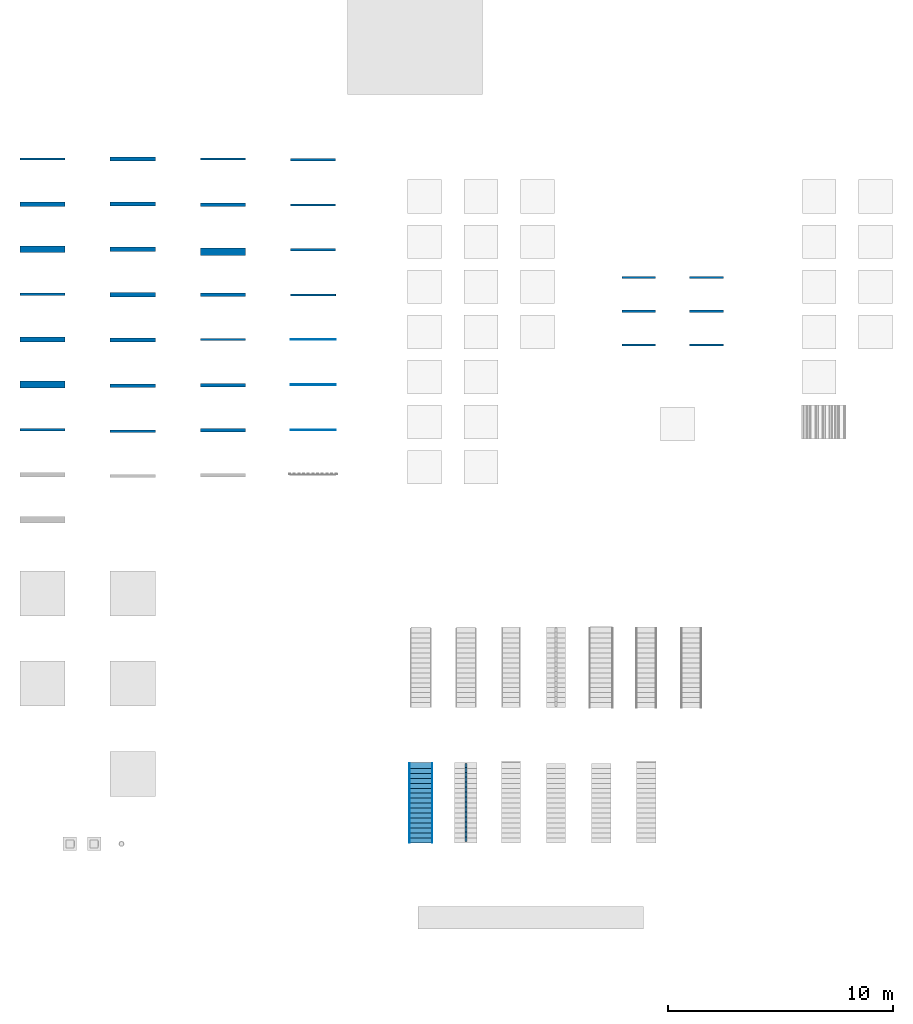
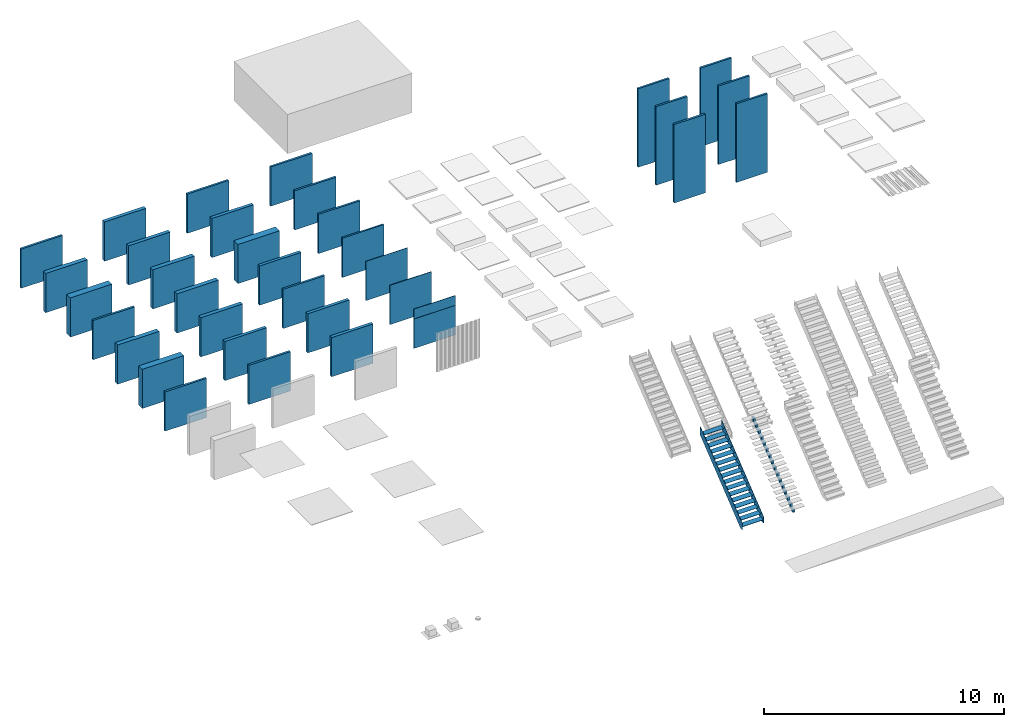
# One storey, part 3 of 11: 35 walls, 3 stairs, 3 elements without a shape of their own.
"""IFC2X3 building model written with IfcOpenShell, lengths in millimetres."""

from ifc_helpers import new_model, entity, si_unit, converted_unit, derived_unit, direction, frame, frame_2d, origin, place, context, subcontext, project, spatial, polyline, rectangle, outline, extrude, material, layer, layer_set, layer_usage, type_object, element, aggregate, save


model = new_model("IFC2X3")

# Units and contexts
model_context = context("Model", 3, precision=0.01, world=origin(), true_north=direction((6.12303176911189e-17, 1.0)))
body_context = subcontext(model_context, "Body", "Model", "MODEL_VIEW")
ifc_project = project(units=[si_unit("LENGTHUNIT", "METRE", prefix="MILLI"), si_unit("AREAUNIT", "SQUARE_METRE"), si_unit("VOLUMEUNIT", "CUBIC_METRE"), converted_unit("PLANEANGLEUNIT", "DEGREE", entity("IfcRatioMeasure", 0.0174532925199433), si_unit("PLANEANGLEUNIT", "RADIAN"), dimensions=[0, 0, 0, 0, 0, 0, 0]), si_unit("MASSUNIT", "GRAM", prefix="KILO"), si_unit("TIMEUNIT", "SECOND"), si_unit("FREQUENCYUNIT", "HERTZ"), si_unit("THERMODYNAMICTEMPERATUREUNIT", "KELVIN"), derived_unit("THERMALTRANSMITTANCEUNIT", [(si_unit("MASSUNIT", "GRAM", prefix="KILO"), 1), (si_unit("THERMODYNAMICTEMPERATUREUNIT", "KELVIN"), -1), (si_unit("TIMEUNIT", "SECOND"), -3)]), derived_unit("VOLUMETRICFLOWRATEUNIT", [(si_unit("LENGTHUNIT", "METRE"), 3), (si_unit("TIMEUNIT", "SECOND"), -1)]), si_unit("ELECTRICCURRENTUNIT", "AMPERE"), si_unit("ELECTRICVOLTAGEUNIT", "VOLT"), si_unit("POWERUNIT", "WATT")], contexts=[model_context])

# Site, building, storey
site_placement = place(None, origin())
site = spatial("IfcSite", under=ifc_project, at=site_placement, Name="Surface:5707", CompositionType="ELEMENT")
building_placement = place(site_placement, origin())
building = spatial("IfcBuilding", under=site, at=building_placement, CompositionType="ELEMENT")
storey_placement = place(building_placement, origin())
storey = spatial("IfcBuildingStorey", under=building, at=storey_placement, Name="00_begane grond", CompositionType="ELEMENT", Elevation=0.0)

# Walls
ifc_material_1 = material(Name="Default")
ifc_layer_1 = layer(ifc_material_1, 100.0)
ifc_layer_set_1 = layer_set([ifc_layer_1], Name="Basic Wall:Basic Wall:20_WA_wand_generiek_100")
ifc_layer_usage_1 = layer_usage(ifc_layer_set_1, "AXIS2", "NEGATIVE", 50.0)
wall_type_1 = type_object("IfcWallType", Name="Basic Wall:Basic Wall:20_WA_wand_generiek_100", PredefinedType="STANDARD", material=ifc_layer_set_1)
wall_1_placement = place(storey_placement, frame((0.0, -1000.0, 0.0)))
element("IfcWallStandardCase", 1, at=wall_1_placement, inside=storey, type_object=wall_type_1, material=ifc_layer_usage_1, Name="Basic Wall:Basic Wall:20_WA_wand_generiek_100:5875", ObjectType="Basic Wall:Basic Wall:20_WA_wand_generiek_100:5790", context=body_context, shape_type="SweptSolid", body=[
    extrude(rectangle(XDim=2000.0, YDim=100.0, at=frame_2d((1000.0, 0.0), x_axis=(-1.0, 0.0))), origin(), (0.0, 0.0, 1.0), 2000.0),
])
ifc_layer_usage_2 = layer_usage(ifc_layer_set_1, "AXIS2", "NEGATIVE", 50.0)
wall_2_placement = place(storey_placement, frame((29689.8687148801, -6248.9380073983, 0.0)))
element("IfcWallStandardCase", 2, at=wall_2_placement, inside=storey, type_object=wall_type_1, material=ifc_layer_usage_2, Name="Basic Wall:Basic Wall:20_WA_wand_generiek_100:6094", ObjectType="Basic Wall:Basic Wall:20_WA_wand_generiek_100:5790", context=body_context, shape_type="SweptSolid", body=[
    extrude(rectangle(XDim=1500.0, YDim=99.9999999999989, at=frame_2d((750.000000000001, 0.0), x_axis=(-1.0, 0.0))), origin(), (0.0, 0.0, 1.0), 4000.0),
])
ifc_layer_usage_3 = layer_usage(ifc_layer_set_1, "AXIS2", "NEGATIVE", 50.0)
wall_3_placement = place(storey_placement, frame((29689.8687148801, -7748.9380073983, 0.0)))
element("IfcWallStandardCase", 3, at=wall_3_placement, inside=storey, type_object=wall_type_1, material=ifc_layer_usage_3, Name="Basic Wall:Basic Wall:20_WA_wand_generiek_100:6095", ObjectType="Basic Wall:Basic Wall:20_WA_wand_generiek_100:5790", context=body_context, shape_type="SweptSolid", body=[
    extrude(rectangle(XDim=1500.0, YDim=100.000000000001, at=frame_2d((750.000000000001, 0.0), x_axis=(-1.0, 0.0))), origin(), (0.0, 0.0, 1.0), 4000.0),
])
ifc_layer_usage_4 = layer_usage(ifc_layer_set_1, "AXIS2", "NEGATIVE", 50.0)
wall_4_placement = place(storey_placement, frame((29689.8687148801, -9248.9380073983, 0.0)))
element("IfcWallStandardCase", 4, at=wall_4_placement, inside=storey, type_object=wall_type_1, material=ifc_layer_usage_4, Name="Basic Wall:Basic Wall:20_WA_wand_generiek_100:6096", ObjectType="Basic Wall:Basic Wall:20_WA_wand_generiek_100:5790", context=body_context, shape_type="SweptSolid", body=[
    extrude(rectangle(XDim=1500.0, YDim=100.000000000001, at=frame_2d((750.000000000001, 0.0), x_axis=(-1.0, 0.0))), origin(), (0.0, 0.0, 1.0), 4000.0),
])
ifc_layer_usage_5 = layer_usage(ifc_layer_set_1, "AXIS2", "NEGATIVE", 50.0)
wall_5_placement = place(storey_placement, frame((26689.8687148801, -6248.93800739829, 0.0)))
element("IfcWallStandardCase", 5, at=wall_5_placement, inside=storey, type_object=wall_type_1, material=ifc_layer_usage_5, Name="Basic Wall:Basic Wall:20_WA_wand_generiek_100:6097", ObjectType="Basic Wall:Basic Wall:20_WA_wand_generiek_100:5790", context=body_context, shape_type="SweptSolid", body=[
    extrude(rectangle(XDim=1500.0, YDim=100.000000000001, at=frame_2d((749.999999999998, 0.0), x_axis=(-1.0, 0.0))), origin(), (0.0, 0.0, 1.0), 4000.0),
])
ifc_layer_usage_6 = layer_usage(ifc_layer_set_1, "AXIS2", "NEGATIVE", 50.0)
wall_6_placement = place(storey_placement, frame((26689.8687148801, -7748.93800739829, 0.0)))
element("IfcWallStandardCase", 6, at=wall_6_placement, inside=storey, type_object=wall_type_1, material=ifc_layer_usage_6, Name="Basic Wall:Basic Wall:20_WA_wand_generiek_100:6098", ObjectType="Basic Wall:Basic Wall:20_WA_wand_generiek_100:5790", context=body_context, shape_type="SweptSolid", body=[
    extrude(rectangle(XDim=1500.0, YDim=99.9999999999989, at=frame_2d((749.999999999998, 0.0), x_axis=(-1.0, 0.0))), origin(), (0.0, 0.0, 1.0), 4000.0),
])
ifc_layer_usage_7 = layer_usage(ifc_layer_set_1, "AXIS2", "NEGATIVE", 50.0)
wall_7_placement = place(storey_placement, frame((26689.86871488, -9248.93800739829, 0.0)))
element("IfcWallStandardCase", 7, at=wall_7_placement, inside=storey, type_object=wall_type_1, material=ifc_layer_usage_7, Name="Basic Wall:Basic Wall:20_WA_wand_generiek_100:6099", ObjectType="Basic Wall:Basic Wall:20_WA_wand_generiek_100:5790", context=body_context, shape_type="SweptSolid", body=[
    extrude(rectangle(XDim=1500.0, YDim=100.000000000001, at=frame_2d((750.000000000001, 0.0), x_axis=(-1.0, 0.0))), origin(), (0.0, 0.0, 1.0), 4000.0),
])
ifc_layer_2 = layer(ifc_material_1, 200.0)
ifc_layer_set_2 = layer_set([ifc_layer_2], Name="Basic Wall:Basic Wall:20_WA_wand_generiek_200")
ifc_layer_usage_8 = layer_usage(ifc_layer_set_2, "AXIS2", "NEGATIVE", 100.0)
wall_type_2 = type_object("IfcWallType", Name="Basic Wall:Basic Wall:20_WA_wand_generiek_200", PredefinedType="STANDARD", material=ifc_layer_set_2)
wall_8_placement = place(storey_placement, frame((0.0, -3000.0, 0.0)))
element("IfcWallStandardCase", 8, at=wall_8_placement, inside=storey, type_object=wall_type_2, material=ifc_layer_usage_8, Name="Basic Wall:Basic Wall:20_WA_wand_generiek_200:5876", ObjectType="Basic Wall:Basic Wall:20_WA_wand_generiek_200:5789", context=body_context, shape_type="SweptSolid", body=[
    extrude(rectangle(XDim=2000.0, YDim=200.0, at=frame_2d((1000.0, 0.0), x_axis=(-1.0, 0.0))), origin(), (0.0, 0.0, 1.0), 2000.0),
])
ifc_layer_3 = layer(ifc_material_1, 300.0)
ifc_layer_set_3 = layer_set([ifc_layer_3], Name="Basic Wall:Basic Wall:20_WA_wand_generiek_300")
ifc_layer_usage_9 = layer_usage(ifc_layer_set_3, "AXIS2", "NEGATIVE", 150.0)
wall_type_3 = type_object("IfcWallType", Name="Basic Wall:Basic Wall:20_WA_wand_generiek_300", PredefinedType="STANDARD", material=ifc_layer_set_3)
wall_9_placement = place(storey_placement, frame((0.0, -5000.0, 0.0)))
element("IfcWallStandardCase", 9, at=wall_9_placement, inside=storey, type_object=wall_type_3, material=ifc_layer_usage_9, Name="Basic Wall:Basic Wall:20_WA_wand_generiek_300:5877", ObjectType="Basic Wall:Basic Wall:20_WA_wand_generiek_300:5788", context=body_context, shape_type="SweptSolid", body=[
    extrude(rectangle(XDim=2000.0, YDim=300.000000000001, at=frame_2d((1000.0, -2.70006239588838e-13), x_axis=(-1.0, 0.0))), origin(), (0.0, 0.0, 1.0), 2000.0),
])
ifc_material_2 = material(Name="20_baksteen_wf_210x100x50_10mm_voeg_halfsteens_rood_genuanceerd")
ifc_layer_4 = layer(ifc_material_2, 100.0)
ifc_layer_set_4 = layer_set([ifc_layer_4], Name="Basic Wall:Basic Wall:21_WA_mw_100")
ifc_layer_usage_10 = layer_usage(ifc_layer_set_4, "AXIS2", "NEGATIVE", 50.0)
wall_type_4 = type_object("IfcWallType", Name="Basic Wall:Basic Wall:21_WA_mw_100", PredefinedType="STANDARD", material=ifc_layer_set_4)
wall_10_placement = place(storey_placement, frame((0.0, -13000.0, 0.0)))
element("IfcWallStandardCase", 10, at=wall_10_placement, inside=storey, type_object=wall_type_4, material=ifc_layer_usage_10, Name="Basic Wall:Basic Wall:21_WA_mw_100:5878", ObjectType="Basic Wall:Basic Wall:21_WA_mw_100:5787", context=body_context, shape_type="SweptSolid", body=[
    extrude(rectangle(XDim=2000.0, YDim=99.9999999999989, at=frame_2d((1000.0, 0.0), x_axis=(-1.0, 0.0))), origin(), (0.0, 0.0, 1.0), 2000.0),
])
ifc_material_3 = material(Name="00_baksteen_bestaand")
ifc_layer_5 = layer(ifc_material_3, 100.0)
ifc_layer_set_5 = layer_set([ifc_layer_5], Name="Basic Wall:Basic Wall:21_WA_mw-bestaand_100")
ifc_layer_usage_11 = layer_usage(ifc_layer_set_5, "AXIS2", "NEGATIVE", 50.0)
wall_type_5 = type_object("IfcWallType", Name="Basic Wall:Basic Wall:21_WA_mw-bestaand_100", PredefinedType="STANDARD", material=ifc_layer_set_5)
wall_11_placement = place(storey_placement, frame((0.0, -7000.0, 0.0)))
element("IfcWallStandardCase", 11, at=wall_11_placement, inside=storey, type_object=wall_type_5, material=ifc_layer_usage_11, Name="Basic Wall:Basic Wall:21_WA_mw-bestaand_100:5881", ObjectType="Basic Wall:Basic Wall:21_WA_mw-bestaand_100:5784", context=body_context, shape_type="SweptSolid", body=[
    extrude(rectangle(XDim=2000.0, YDim=99.9999999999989, at=frame_2d((1000.0, 0.0), x_axis=(-1.0, 0.0))), origin(), (0.0, 0.0, 1.0), 2000.0),
])
ifc_layer_6 = layer(ifc_material_3, 210.0)
ifc_layer_set_6 = layer_set([ifc_layer_6], Name="Basic Wall:Basic Wall:21_WA_mw_bestaand_210")
ifc_layer_usage_12 = layer_usage(ifc_layer_set_6, "AXIS2", "NEGATIVE", 105.0)
wall_type_6 = type_object("IfcWallType", Name="Basic Wall:Basic Wall:21_WA_mw_bestaand_210", PredefinedType="STANDARD", material=ifc_layer_set_6)
wall_12_placement = place(storey_placement, frame((0.0, -9000.0, 0.0)))
element("IfcWallStandardCase", 12, at=wall_12_placement, inside=storey, type_object=wall_type_6, material=ifc_layer_usage_12, Name="Basic Wall:Basic Wall:21_WA_mw_bestaand_210:5882", ObjectType="Basic Wall:Basic Wall:21_WA_mw_bestaand_210:5783", context=body_context, shape_type="SweptSolid", body=[
    extrude(rectangle(XDim=2000.0, YDim=210.0, at=frame_2d((1000.0, 0.0), x_axis=(-1.0, 0.0))), origin(), (0.0, 0.0, 1.0), 2000.0),
])
ifc_layer_7 = layer(ifc_material_3, 100.0)
ifc_material_4 = material(Name="00_lucht_spouw_muur_geventileerd")
ifc_layer_8 = layer(ifc_material_4, 100.0)
ifc_layer_9 = layer(ifc_material_3, 100.0)
ifc_layer_set_7 = layer_set([ifc_layer_7, ifc_layer_8, ifc_layer_9], Name="Basic Wall:Basic Wall:21_WA_mw-bestaand_spouw_mw-bestaand_300_100-100-100")
ifc_layer_usage_13 = layer_usage(ifc_layer_set_7, "AXIS2", "NEGATIVE", 150.0)
wall_type_7 = type_object("IfcWallType", Name="Basic Wall:Basic Wall:21_WA_mw-bestaand_spouw_mw-bestaand_300_100-100-100", PredefinedType="STANDARD", material=ifc_layer_set_7)
wall_13_placement = place(storey_placement, frame((0.0, -11000.0, 0.0)))
element("IfcWallStandardCase", 13, at=wall_13_placement, inside=storey, type_object=wall_type_7, material=ifc_layer_usage_13, Name="Basic Wall:Basic Wall:21_WA_mw-bestaand_spouw_mw-bestaand_300_100-100-100:5883", ObjectType="Basic Wall:Basic Wall:21_WA_mw-bestaand_spouw_mw-bestaand_300_100-100-100:5780", context=body_context, shape_type="SweptSolid", body=[
    extrude(rectangle(XDim=2000.0, YDim=300.000000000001, at=frame_2d((1000.0, 0.0), x_axis=(-1.0, 0.0))), origin(), (0.0, 0.0, 1.0), 2000.0),
])
ifc_layer_10 = layer(ifc_material_2, 100.0)
ifc_layer_11 = layer(ifc_material_4, 70.0)
ifc_layer_set_8 = layer_set([ifc_layer_10, ifc_layer_11], Name="Basic Wall:Basic Wall:-70")
ifc_layer_usage_14 = layer_usage(ifc_layer_set_8, "AXIS2", "NEGATIVE", 85.0)
wall_type_8 = type_object("IfcWallType", Name="Basic Wall:Basic Wall:-70", PredefinedType="STANDARD", material=ifc_layer_set_8)
wall_14_placement = place(storey_placement, frame((4000.0, -1000.0, 0.0)))
element("IfcWallStandardCase", 14, at=wall_14_placement, inside=storey, type_object=wall_type_8, material=ifc_layer_usage_14, Name="Basic Wall:Basic Wall:-70:5884", ObjectType="Basic Wall:Basic Wall:-70:5777", context=body_context, shape_type="SweptSolid", body=[
    extrude(rectangle(XDim=2000.0, YDim=170.0, at=frame_2d((1000.0, 0.0), x_axis=(-1.0, 0.0))), origin(), (0.0, 0.0, 1.0), 2000.0),
])
ifc_layer_12 = layer(ifc_material_2, 100.0)
ifc_layer_13 = layer(ifc_material_4, 20.0)
ifc_material_5 = material(Name="20_isolatie_steenwol")
ifc_layer_14 = layer(ifc_material_5, 50.0)
ifc_layer_set_9 = layer_set([ifc_layer_12, ifc_layer_13, ifc_layer_14], Name="Basic Wall:Basic Wall:21_WA_mw_spouw_iso-sw_170_100-20-50")
ifc_layer_usage_15 = layer_usage(ifc_layer_set_9, "AXIS2", "NEGATIVE", 85.0)
wall_type_9 = type_object("IfcWallType", Name="Basic Wall:Basic Wall:21_WA_mw_spouw_iso-sw_170_100-20-50", PredefinedType="STANDARD", material=ifc_layer_set_9)
wall_15_placement = place(storey_placement, frame((4000.0, -3000.0, 0.0)))
element("IfcWallStandardCase", 15, at=wall_15_placement, inside=storey, type_object=wall_type_9, material=ifc_layer_usage_15, Name="Basic Wall:Basic Wall:21_WA_mw_spouw_iso-sw_170_100-20-50:5885", ObjectType="Basic Wall:Basic Wall:21_WA_mw_spouw_iso-sw_170_100-20-50:5776", context=body_context, shape_type="SweptSolid", body=[
    extrude(rectangle(XDim=2000.0, YDim=170.0, at=frame_2d((1000.0, 0.0), x_axis=(-1.0, 0.0))), origin(), (0.0, 0.0, 1.0), 2000.0),
])
ifc_layer_15 = layer(ifc_material_2, 100.0)
ifc_layer_16 = layer(ifc_material_4, 30.0)
ifc_layer_17 = layer(ifc_material_5, 70.0)
ifc_layer_set_10 = layer_set([ifc_layer_15, ifc_layer_16, ifc_layer_17], Name="Basic Wall:Basic Wall:21_WA_mw_spouw_iso-sw_200_100-30-70")
ifc_layer_usage_16 = layer_usage(ifc_layer_set_10, "AXIS2", "NEGATIVE", 100.0)
wall_type_10 = type_object("IfcWallType", Name="Basic Wall:Basic Wall:21_WA_mw_spouw_iso-sw_200_100-30-70", PredefinedType="STANDARD", material=ifc_layer_set_10)
wall_16_placement = place(storey_placement, frame((4000.0, -5000.0, 0.0)))
element("IfcWallStandardCase", 16, at=wall_16_placement, inside=storey, type_object=wall_type_10, material=ifc_layer_usage_16, Name="Basic Wall:Basic Wall:21_WA_mw_spouw_iso-sw_200_100-30-70:5886", ObjectType="Basic Wall:Basic Wall:21_WA_mw_spouw_iso-sw_200_100-30-70:5775", context=body_context, shape_type="SweptSolid", body=[
    extrude(rectangle(XDim=2000.0, YDim=200.0, at=frame_2d((1000.0, 0.0), x_axis=(-1.0, 0.0))), origin(), (0.0, 0.0, 1.0), 2000.0),
])
ifc_layer_usage_17 = layer_usage(ifc_layer_set_10, "AXIS2", "NEGATIVE", 100.0)
wall_17_placement = place(storey_placement, frame((4000.0, -7020.0, 0.0)))
element("IfcWallStandardCase", 17, at=wall_17_placement, inside=storey, type_object=wall_type_10, material=ifc_layer_usage_17, Name="Basic Wall:Basic Wall:21_WA_mw_spouw_iso-sw_200_100-30-70:5887", ObjectType="Basic Wall:Basic Wall:21_WA_mw_spouw_iso-sw_200_100-30-70:5775", context=body_context, shape_type="SweptSolid", body=[
    extrude(rectangle(XDim=2000.0, YDim=200.0, at=frame_2d((1000.0, 0.0), x_axis=(-1.0, 0.0))), origin(), (0.0, 0.0, 1.0), 2000.0),
])
ifc_material_6 = material(Name="41_hout_hardhout_geveldelen_donkerblauw_horizontaal")
ifc_layer_18 = layer(ifc_material_6, 20.0)
ifc_material_7 = material(Name="40_regelwerk_geventileerd")
ifc_layer_19 = layer(ifc_material_7, 30.0)
ifc_layer_20 = layer(ifc_material_7, 10.0)
ifc_layer_21 = layer(ifc_material_5, 120.0)
ifc_layer_set_11 = layer_set([ifc_layer_18, ifc_layer_19, ifc_layer_20, ifc_layer_21], Name="Basic Wall:Basic Wall:21_WA_hout-wrc-hor_rachel_tengel_iso-sw_180_20-30-10-120")
ifc_layer_usage_18 = layer_usage(ifc_layer_set_11, "AXIS2", "NEGATIVE", 90.0)
wall_type_11 = type_object("IfcWallType", Name="Basic Wall:Basic Wall:21_WA_hout-wrc-hor_rachel_tengel_iso-sw_180_20-30-10-120", PredefinedType="STANDARD", material=ifc_layer_set_11)
wall_18_placement = place(storey_placement, frame((4000.0, -9030.0, 0.0)))
element("IfcWallStandardCase", 18, at=wall_18_placement, inside=storey, type_object=wall_type_11, material=ifc_layer_usage_18, Name="Basic Wall:Basic Wall:21_WA_hout-wrc-hor_rachel_tengel_iso-sw_180_20-30-10-120:5888", ObjectType="Basic Wall:Basic Wall:21_WA_hout-wrc-hor_rachel_tengel_iso-sw_180_20-30-10-120:5773", context=body_context, shape_type="SweptSolid", body=[
    extrude(rectangle(XDim=2000.0, YDim=180.0, at=frame_2d((1000.0, 0.0), x_axis=(-1.0, 0.0))), origin(), (0.0, 0.0, 1.0), 2000.0),
])
ifc_material_8 = material(Name="28_kalkzandsteen_CS16")
ifc_layer_22 = layer(ifc_material_8, 100.0)
ifc_layer_set_12 = layer_set([ifc_layer_22], Name="Basic Wall:Basic Wall:28_WA_kzs_CS16_100")
ifc_layer_usage_19 = layer_usage(ifc_layer_set_12, "AXIS2", "NEGATIVE", 50.0)
wall_type_12 = type_object("IfcWallType", Name="Basic Wall:Basic Wall:28_WA_kzs_CS16_100", PredefinedType="STANDARD", material=ifc_layer_set_12)
wall_19_placement = place(storey_placement, frame((8000.0, -1000.0, 0.0)))
element("IfcWallStandardCase", 19, at=wall_19_placement, inside=storey, type_object=wall_type_12, material=ifc_layer_usage_19, Name="Basic Wall:Basic Wall:28_WA_kzs_CS16_100:5889", ObjectType="Basic Wall:Basic Wall:28_WA_kzs_CS16_100:5772", context=body_context, shape_type="SweptSolid", body=[
    extrude(rectangle(XDim=2000.0, YDim=100.0, at=frame_2d((1000.0, 0.0), x_axis=(-1.0, 0.0))), origin(), (0.0, 0.0, 1.0), 2000.0),
])
ifc_material_9 = material(Name="40_stucwerk_exterieur_grof_wit")
ifc_layer_23 = layer(ifc_material_9, 30.0)
ifc_material_10 = material(Name="20_isolatie_EPS")
ifc_layer_24 = layer(ifc_material_10, 120.0)
ifc_layer_set_13 = layer_set([ifc_layer_23, ifc_layer_24], Name="Basic Wall:Basic Wall:21_WA_stucwerk_iso-eps_150_30-120")
ifc_layer_usage_20 = layer_usage(ifc_layer_set_13, "AXIS2", "NEGATIVE", 75.0)
wall_type_13 = type_object("IfcWallType", Name="Basic Wall:Basic Wall:21_WA_stucwerk_iso-eps_150_30-120", PredefinedType="STANDARD", material=ifc_layer_set_13)
wall_20_placement = place(storey_placement, frame((4000.0, -11045.0, 0.0)))
element("IfcWallStandardCase", 20, at=wall_20_placement, inside=storey, type_object=wall_type_13, material=ifc_layer_usage_20, Name="Basic Wall:Basic Wall:21_WA_stucwerk_iso-eps_150_30-120:5890", ObjectType="Basic Wall:Basic Wall:21_WA_stucwerk_iso-eps_150_30-120:5770", context=body_context, shape_type="SweptSolid", body=[
    extrude(rectangle(XDim=2000.0, YDim=150.000000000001, at=frame_2d((1000.0, 0.0), x_axis=(-1.0, 0.0))), origin(), (0.0, 0.0, 1.0), 2000.0),
])
ifc_material_11 = material(Name="41_staal_geanodizeerd_wit")
ifc_layer_25 = layer(ifc_material_11, 1.6)
ifc_material_12 = material(Name="20_isolatie_PIR")
ifc_layer_26 = layer(ifc_material_12, 96.8)
ifc_layer_27 = layer(ifc_material_11, 1.6)
ifc_layer_set_14 = layer_set([ifc_layer_25, ifc_layer_26, ifc_layer_27], Name="Basic Wall:Basic Wall:21_WA_sandwichpaneel_100x1000")
ifc_layer_usage_21 = layer_usage(ifc_layer_set_14, "AXIS2", "NEGATIVE", 50.0)
wall_type_14 = type_object("IfcWallType", Name="Basic Wall:Basic Wall:21_WA_sandwichpaneel_100x1000", PredefinedType="STANDARD", material=ifc_layer_set_14)
wall_21_placement = place(storey_placement, frame((4000.0, -13070.0, 0.0)))
element("IfcWallStandardCase", 21, at=wall_21_placement, inside=storey, type_object=wall_type_14, material=ifc_layer_usage_21, Name="Basic Wall:Basic Wall:21_WA_sandwichpaneel_100x1000:5891", ObjectType="Basic Wall:Basic Wall:21_WA_sandwichpaneel_100x1000:5768", context=body_context, shape_type="SweptSolid", body=[
    extrude(rectangle(XDim=2000.0, YDim=99.9999999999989, at=frame_2d((1000.0, 0.0), x_axis=(-1.0, 0.0))), origin(), (0.0, 0.0, 1.0), 2000.0),
])
ifc_layer_28 = layer(ifc_material_8, 150.0)
ifc_layer_set_15 = layer_set([ifc_layer_28], Name="Basic Wall:Basic Wall:28_WA_kzs_CS16_150")
ifc_layer_usage_22 = layer_usage(ifc_layer_set_15, "AXIS2", "NEGATIVE", 75.0)
wall_type_15 = type_object("IfcWallType", Name="Basic Wall:Basic Wall:28_WA_kzs_CS16_150", PredefinedType="STANDARD", material=ifc_layer_set_15)
wall_22_placement = place(storey_placement, frame((8000.0, -3025.0, 0.0)))
element("IfcWallStandardCase", 22, at=wall_22_placement, inside=storey, type_object=wall_type_15, material=ifc_layer_usage_22, Name="Basic Wall:Basic Wall:28_WA_kzs_CS16_150:5892", ObjectType="Basic Wall:Basic Wall:28_WA_kzs_CS16_150:5767", context=body_context, shape_type="SweptSolid", body=[
    extrude(rectangle(XDim=2000.0, YDim=150.000000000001, at=frame_2d((1000.0, 0.0), x_axis=(-1.0, 0.0))), origin(), (0.0, 0.0, 1.0), 2000.0),
])
ifc_layer_29 = layer(ifc_material_8, 150.0)
ifc_layer_30 = layer(ifc_material_4, 30.0)
ifc_layer_31 = layer(ifc_material_8, 150.0)
ifc_layer_set_16 = layer_set([ifc_layer_29, ifc_layer_30, ifc_layer_31], Name="Basic Wall:Basic Wall:28_WA_kzs-CS16_spouw_kzs-C16_330_150-30-150")
ifc_layer_usage_23 = layer_usage(ifc_layer_set_16, "AXIS2", "NEGATIVE", 165.0)
wall_type_16 = type_object("IfcWallType", Name="Basic Wall:Basic Wall:28_WA_kzs-CS16_spouw_kzs-C16_330_150-30-150", PredefinedType="STANDARD", material=ifc_layer_set_16)
wall_23_placement = place(storey_placement, frame((8000.0, -5115.0, 0.0)))
element("IfcWallStandardCase", 23, at=wall_23_placement, inside=storey, type_object=wall_type_16, material=ifc_layer_usage_23, Name="Basic Wall:Basic Wall:28_WA_kzs-CS16_spouw_kzs-C16_330_150-30-150:5893", ObjectType="Basic Wall:Basic Wall:28_WA_kzs-CS16_spouw_kzs-C16_330_150-30-150:5766", context=body_context, shape_type="SweptSolid", body=[
    extrude(rectangle(XDim=2000.0, YDim=330.000000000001, at=frame_2d((1000.0, 0.0), x_axis=(-1.0, 0.0))), origin(), (0.0, 0.0, 1.0), 2000.0),
])
ifc_material_13 = material(Name="28_poriso_dragend")
ifc_layer_32 = layer(ifc_material_13, 140.0)
ifc_layer_set_17 = layer_set([ifc_layer_32], Name="Basic Wall:Basic Wall:28_WA_por_PM25_140")
ifc_layer_usage_24 = layer_usage(ifc_layer_set_17, "AXIS2", "NEGATIVE", 70.0)
wall_type_17 = type_object("IfcWallType", Name="Basic Wall:Basic Wall:28_WA_por_PM25_140", PredefinedType="STANDARD", material=ifc_layer_set_17)
wall_24_placement = place(storey_placement, frame((8000.0, -7020.0, 0.0)))
element("IfcWallStandardCase", 24, at=wall_24_placement, inside=storey, type_object=wall_type_17, material=ifc_layer_usage_24, Name="Basic Wall:Basic Wall:28_WA_por_PM25_140:5894", ObjectType="Basic Wall:Basic Wall:28_WA_por_PM25_140:5765", context=body_context, shape_type="SweptSolid", body=[
    extrude(rectangle(XDim=2000.0, YDim=140.000000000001, at=frame_2d((1000.0, 0.0), x_axis=(-1.0, 0.0))), origin(), (0.0, 0.0, 1.0), 2000.0),
])
ifc_material_14 = material(Name="28_cellenbeton_G4/600")
ifc_layer_33 = layer(ifc_material_14, 100.0)
ifc_layer_set_18 = layer_set([ifc_layer_33], Name="Basic Wall:Basic Wall:28_WA_cb_G4/600_100")
ifc_layer_usage_25 = layer_usage(ifc_layer_set_18, "AXIS2", "NEGATIVE", 50.0)
wall_type_18 = type_object("IfcWallType", Name="Basic Wall:Basic Wall:28_WA_cb_G4/600_100", PredefinedType="STANDARD", material=ifc_layer_set_18)
wall_25_placement = place(storey_placement, frame((8000.0, -9000.0, 0.0)))
element("IfcWallStandardCase", 25, at=wall_25_placement, inside=storey, type_object=wall_type_18, material=ifc_layer_usage_25, Name="Basic Wall:Basic Wall:28_WA_cb_G4/600_100:5895", ObjectType="Basic Wall:Basic Wall:28_WA_cb_G4/600_100:5764", context=body_context, shape_type="SweptSolid", body=[
    extrude(rectangle(XDim=2000.0, YDim=99.9999999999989, at=frame_2d((1000.0, 0.0), x_axis=(-1.0, 0.0))), origin(), (0.0, 0.0, 1.0), 2000.0),
])
ifc_material_15 = material(Name="28_beton_prefab_C45_55")
ifc_layer_34 = layer(ifc_material_15, 150.0)
ifc_layer_set_19 = layer_set([ifc_layer_34], Name="Basic Wall:Basic Wall:28_WA_prefabb_C45_150")
ifc_layer_usage_26 = layer_usage(ifc_layer_set_19, "AXIS2", "NEGATIVE", 75.0)
wall_type_19 = type_object("IfcWallType", Name="Basic Wall:Basic Wall:28_WA_prefabb_C45_150", PredefinedType="STANDARD", material=ifc_layer_set_19)
wall_26_placement = place(storey_placement, frame((8000.0, -13025.0, 0.0)))
element("IfcWallStandardCase", 26, at=wall_26_placement, inside=storey, type_object=wall_type_19, material=ifc_layer_usage_26, Name="Basic Wall:Basic Wall:28_WA_prefabb_C45_150:5896", ObjectType="Basic Wall:Basic Wall:28_WA_prefabb_C45_150:5763", context=body_context, shape_type="SweptSolid", body=[
    extrude(rectangle(XDim=2000.0, YDim=150.000000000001, at=frame_2d((1000.0, 0.0), x_axis=(-1.0, 0.0))), origin(), (0.0, 0.0, 1.0), 2000.0),
])
ifc_material_16 = material(Name="22_kalkzandsteen_CS12")
ifc_layer_35 = layer(ifc_material_16, 100.0)
ifc_layer_set_20 = layer_set([ifc_layer_35], Name="Basic Wall:Basic Wall:22_WA_kzs_CS12_100")
ifc_layer_usage_27 = layer_usage(ifc_layer_set_20, "AXIS2", "NEGATIVE", 50.0)
wall_type_20 = type_object("IfcWallType", Name="Basic Wall:Basic Wall:22_WA_kzs_CS12_100", PredefinedType="STANDARD", material=ifc_layer_set_20)
wall_27_placement = place(storey_placement, frame((12000.0, -1035.0, 0.0)))
element("IfcWallStandardCase", 27, at=wall_27_placement, inside=storey, type_object=wall_type_20, material=ifc_layer_usage_27, Name="Basic Wall:Basic Wall:22_WA_kzs_CS12_100:5897", ObjectType="Basic Wall:Basic Wall:22_WA_kzs_CS12_100:5762", context=body_context, shape_type="SweptSolid", body=[
    extrude(rectangle(XDim=2000.0, YDim=100.0, at=frame_2d((1000.0, 0.0), x_axis=(-1.0, 0.0))), origin(), (0.0, 0.0, 1.0), 2000.0),
])
ifc_material_17 = material(Name="22_cellenbeton G2/400")
ifc_layer_36 = layer(ifc_material_17, 100.0)
ifc_layer_set_21 = layer_set([ifc_layer_36], Name="Basic Wall:Basic Wall:22_WA_cb_G2/400_100")
ifc_layer_usage_28 = layer_usage(ifc_layer_set_21, "AXIS2", "NEGATIVE", 50.0)
wall_type_21 = type_object("IfcWallType", Name="Basic Wall:Basic Wall:22_WA_cb_G2/400_100", PredefinedType="STANDARD", material=ifc_layer_set_21)
wall_28_placement = place(storey_placement, frame((12000.0, -3035.0, 0.0)))
element("IfcWallStandardCase", 28, at=wall_28_placement, inside=storey, type_object=wall_type_21, material=ifc_layer_usage_28, Name="Basic Wall:Basic Wall:22_WA_cb_G2/400_100:5898", ObjectType="Basic Wall:Basic Wall:22_WA_cb_G2/400_100:5761", context=body_context, shape_type="SweptSolid", body=[
    extrude(rectangle(XDim=2000.0, YDim=100.0, at=frame_2d((1000.0, 0.0), x_axis=(-1.0, 0.0))), origin(), (0.0, 0.0, 1.0), 2000.0),
])
ifc_material_18 = material(Name="22_gips_beplating_wand_610mm")
ifc_layer_37 = layer(ifc_material_18, 12.5)
ifc_layer_38 = layer(ifc_material_5, 70.0)
ifc_layer_39 = layer(ifc_material_18, 12.5)
ifc_layer_set_22 = layer_set([ifc_layer_37, ifc_layer_38, ifc_layer_39], Name="Basic Wall:Basic Wall:22_WA_ms-wand_gips_isolatie_gips_95_12.5-70-12.5")
ifc_layer_usage_29 = layer_usage(ifc_layer_set_22, "AXIS2", "NEGATIVE", 47.5)
wall_type_22 = type_object("IfcWallType", Name="Basic Wall:Basic Wall:22_WA_ms-wand_gips_isolatie_gips_95_12.5-70-12.5", PredefinedType="STANDARD", material=ifc_layer_set_22)
wall_29_placement = place(storey_placement, frame((12000.0, -5020.0, 0.0)))
element("IfcWallStandardCase", 29, at=wall_29_placement, inside=storey, type_object=wall_type_22, material=ifc_layer_usage_29, Name="Basic Wall:Basic Wall:22_WA_ms-wand_gips_isolatie_gips_95_12.5-70-12.5:5899", ObjectType="Basic Wall:Basic Wall:22_WA_ms-wand_gips_isolatie_gips_95_12.5-70-12.5:5760", context=body_context, shape_type="SweptSolid", body=[
    extrude(rectangle(XDim=2000.0, YDim=95.0000000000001, at=frame_2d((1000.0, 0.0), x_axis=(-1.0, 0.0))), origin(), (0.0, 0.0, 1.0), 2000.0),
])
ifc_material_19 = material(Name="22_glazen_bouwsteen")
ifc_layer_40 = layer(ifc_material_19, 80.0)
ifc_layer_set_23 = layer_set([ifc_layer_40], Name="Basic Wall:Basic Wall:22_WA_glazen_bouwsteen_80")
ifc_layer_usage_30 = layer_usage(ifc_layer_set_23, "AXIS2", "NEGATIVE", 40.0)
wall_type_23 = type_object("IfcWallType", Name="Basic Wall:Basic Wall:22_WA_glazen_bouwsteen_80", PredefinedType="STANDARD", material=ifc_layer_set_23)
wall_30_placement = place(storey_placement, frame((12000.0, -7025.0, 0.0)))
element("IfcWallStandardCase", 30, at=wall_30_placement, inside=storey, type_object=wall_type_23, material=ifc_layer_usage_30, Name="Basic Wall:Basic Wall:22_WA_glazen_bouwsteen_80:5900", ObjectType="Basic Wall:Basic Wall:22_WA_glazen_bouwsteen_80:5757", context=body_context, shape_type="SweptSolid", body=[
    extrude(rectangle(XDim=2000.0, YDim=79.9999999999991, at=frame_2d((1000.0, 0.0), x_axis=(-1.0, 0.0))), origin(), (0.0, 0.0, 1.0), 2000.0),
])
ifc_material_20 = material(Name="40_stucwerk_interieur_fijn_wit")
ifc_layer_41 = layer(ifc_material_20, 20.0)
ifc_layer_set_24 = layer_set([ifc_layer_41], Name="Basic Wall:Basic Wall:42_WA_stucwerk_20")
ifc_layer_usage_31 = layer_usage(ifc_layer_set_24, "AXIS2", "NEGATIVE", 10.0)
wall_type_24 = type_object("IfcWallType", Name="Basic Wall:Basic Wall:42_WA_stucwerk_20", PredefinedType="STANDARD", material=ifc_layer_set_24)
wall_31_placement = place(storey_placement, frame((12000.0, -9007.50000000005, 0.0)))
element("IfcWallStandardCase", 31, at=wall_31_placement, inside=storey, type_object=wall_type_24, material=ifc_layer_usage_31, Name="Basic Wall:Basic Wall:42_WA_stucwerk_20:5916", ObjectType="Basic Wall:Basic Wall:42_WA_stucwerk_20:5756", context=body_context, shape_type="SweptSolid", body=[
    extrude(rectangle(XDim=2000.0, YDim=19.9999999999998, at=frame_2d((1000.0, 0.0), x_axis=(-1.0, 0.0))), origin(), (0.0, 0.0, 1.0), 2000.0),
])
ifc_layer_usage_32 = layer_usage(ifc_layer_set_24, "AXIS2", "NEGATIVE", 10.0)
wall_32_placement = place(storey_placement, frame((12000.0, -13012.5, 1500.0)))
element("IfcWallStandardCase", 32, at=wall_32_placement, inside=storey, type_object=wall_type_24, material=ifc_layer_usage_32, Name="Basic Wall:Basic Wall:42_WA_stucwerk_20:5919", ObjectType="Basic Wall:Basic Wall:42_WA_stucwerk_20:5756", context=body_context, shape_type="SweptSolid", body=[
    extrude(rectangle(XDim=2000.0, YDim=19.9999999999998, at=frame_2d((1000.0, 0.0), x_axis=(-1.0, 0.0))), origin(), (0.0, 0.0, 1.0), 500.0),
])
ifc_material_21 = material(Name="40_tegels_keramisch_150x150mm_wit")
ifc_layer_42 = layer(ifc_material_21, 10.0)
ifc_material_22 = material(Name="00_zandcement")
ifc_layer_43 = layer(ifc_material_22, 20.0)
ifc_layer_set_25 = layer_set([ifc_layer_42, ifc_layer_43], Name="Basic Wall:Basic Wall:42_WA_tegelwerk_150x150x10mm_op cementmortel_wit")
ifc_layer_usage_33 = layer_usage(ifc_layer_set_25, "AXIS2", "NEGATIVE", 15.0)
wall_type_25 = type_object("IfcWallType", Name="Basic Wall:Basic Wall:42_WA_tegelwerk_150x150x10mm_op cementmortel_wit", PredefinedType="STANDARD", material=ifc_layer_set_25)
wall_33_placement = place(storey_placement, frame((12000.0, -11012.5, 0.0)))
element("IfcWallStandardCase", 33, at=wall_33_placement, inside=storey, type_object=wall_type_25, material=ifc_layer_usage_33, Name="Basic Wall:Basic Wall:42_WA_tegelwerk_150x150x10mm_op cementmortel_wit:5917", ObjectType="Basic Wall:Basic Wall:42_WA_tegelwerk_150x150x10mm_op cementmortel_wit:5754", context=body_context, shape_type="SweptSolid", body=[
    extrude(rectangle(XDim=2000.0, YDim=30.0000000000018, at=frame_2d((1000.0, 0.0), x_axis=(-1.0, 0.0))), origin(), (0.0, 0.0, 1.0), 2000.0),
])
ifc_layer_usage_34 = layer_usage(ifc_layer_set_25, "AXIS2", "NEGATIVE", 15.0)
wall_34_placement = place(storey_placement, frame((12000.0, -13012.5, 0.0)))
element("IfcWallStandardCase", 34, at=wall_34_placement, inside=storey, type_object=wall_type_25, material=ifc_layer_usage_34, Name="Basic Wall:Basic Wall:42_WA_tegelwerk_150x150x10mm_op cementmortel_wit:5918", ObjectType="Basic Wall:Basic Wall:42_WA_tegelwerk_150x150x10mm_op cementmortel_wit:5754", context=body_context, shape_type="SweptSolid", body=[
    extrude(rectangle(XDim=2000.0, YDim=30.0000000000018, at=frame_2d((1000.0, 0.0), x_axis=(-1.0, 0.0))), origin(), (0.0, 0.0, 1.0), 1500.0),
])
ifc_layer_44 = layer(ifc_material_14, 150.0)
ifc_layer_set_26 = layer_set([ifc_layer_44], Name="Basic Wall:Basic Wall:28_WA_cb_G4/600_150")
ifc_layer_usage_35 = layer_usage(ifc_layer_set_26, "AXIS2", "NEGATIVE", 75.0)
wall_type_26 = type_object("IfcWallType", Name="Basic Wall:Basic Wall:28_WA_cb_G4/600_150", PredefinedType="STANDARD", material=ifc_layer_set_26)
wall_35_placement = place(storey_placement, frame((8000.0, -11025.0, 0.0)))
element("IfcWallStandardCase", 35, at=wall_35_placement, inside=storey, type_object=wall_type_26, material=ifc_layer_usage_35, Name="Basic Wall:Basic Wall:28_WA_cb_G4/600_150:6093", ObjectType="Basic Wall:Basic Wall:28_WA_cb_G4/600_150:5728", context=body_context, shape_type="SweptSolid", body=[
    extrude(rectangle(XDim=2000.0, YDim=150.000000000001, at=frame_2d((1000.0, 0.0), x_axis=(-1.0, 0.0))), origin(), (0.0, 0.0, 1.0), 2000.0),
])

# Stairs
stair_1_placement = place(storey_placement, frame((17259.8089026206, -31324.6322235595, 0.0)))
stair_1 = element("IfcStair", 36, at=stair_1_placement, inside=storey, Name="Assembled Stair:Stair:69305 Stringer 1:Stair:69305 Stringer 1 : Assembled Stair:Stair:69305 Stringer 1:3844", ObjectType="Assembled Stair:Stair:69305 Stringer 1:Assembled Stair:Stair:69305 Stringer 1:3842", ShapeType="NOTDEFINED")
ifc_material_23 = material(Name="24_hout_vuren_generiek")
stair_2_placement = place(stair_1_placement, origin())
stair_2 = element("IfcStair", 37, at=stair_2_placement, material=ifc_material_23, Name="Assembled Stair:Stair:69305 Stringer 1:Stair:69305 Stringer 1 : Assembled Stair:Stair:69305 Stringer 1:3844", ObjectType="Assembled Stair:Stair:69305 Stringer 1:Assembled Stair:Stair:69305 Stringer 1:3842", ShapeType="NOTDEFINED", context=body_context, shape_type="SweptSolid", body=[
    extrude(outline(polyline([(-1779.81095331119, -158.597281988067), (2542.18483927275, -158.597281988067), (2822.93350237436, 191.402718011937), (-1689.57337729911, 191.402718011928), (-1895.7340110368, -65.6108720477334), (-1779.81095331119, -158.597281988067)])), frame((1015.0, 1437.72179519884, 1237.36343357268), z_axis=(1.0, 0.0, 0.0), x_axis=(0.0, 0.780054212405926, 0.625711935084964)), (0.0, 0.0, 1.0), 15.0000000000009),
    extrude(outline(polyline([(-1779.81095331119, -158.597281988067), (2542.18483927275, -158.597281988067), (2822.93350237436, 191.402718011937), (-1689.57337729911, 191.402718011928), (-1895.7340110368, -65.6108720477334), (-1779.81095331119, -158.597281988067)])), frame((0.0, 1437.72179519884, 1237.36343357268), z_axis=(1.0, 0.0, 0.0), x_axis=(0.0, 0.780054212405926, 0.625711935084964)), (0.0, 0.0, 1.0), 15.0000000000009),
])
aggregate(stair_1, [stair_2])

stair_3_placement = place(storey_placement, frame((17274.8089026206, -31324.6322235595, 161.470588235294)))
stair_3 = element("IfcStair", 38, at=stair_3_placement, inside=storey, Name="Assembled Stair:Stair:69305 Run 1:Stair:69305 Run 1 : Assembled Stair:Stair:69305 Run 1:3869", ObjectType="Assembled Stair:Stair:69305 Run 1:Assembled Stair:Stair:69305 Run 1:3867", ShapeType="NOTDEFINED")
ifc_material_24 = material(Name="24_staal_gegalvaniseerd_rooster_generiek")
stair_4_placement = place(stair_3_placement, origin())
stair_4 = element("IfcStair", 39, at=stair_4_placement, material=ifc_material_24, Name="Assembled Stair:Stair:69305 Run 1:Stair:69305 Run 1 : Assembled Stair:Stair:69305 Run 1:3869", ObjectType="Assembled Stair:Stair:69305 Run 1:Assembled Stair:Stair:69305 Run 1:3867", ShapeType="NOTDEFINED", context=body_context, shape_type="SweptSolid", body=[
    extrude(rectangle(XDim=1000.0, YDim=269.999999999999, at=frame_2d((1.08002495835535e-12, 4.32009983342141e-12), x_axis=(1.0, 0.0))), frame((500.0, 3435.0, 2647.05882352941)), (0.0, 0.0, 1.0), 14.9999999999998),
    extrude(rectangle(XDim=1000.0, YDim=269.999999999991, at=frame_2d((1.08002495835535e-12, 0.0), x_axis=(1.0, 0.0))), frame((500.0, 3215.0, 2470.58823529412)), (0.0, 0.0, 1.0), 14.9999999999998),
    extrude(rectangle(XDim=1000.0, YDim=270.000000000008, at=frame_2d((1.08002495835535e-12, 0.0), x_axis=(1.0, 0.0))), frame((500.0, 2995.0, 2294.11764705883)), (0.0, 0.0, 1.0), 14.9999999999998),
    extrude(rectangle(XDim=1000.0, YDim=269.999999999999, at=frame_2d((1.08002495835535e-12, 0.0), x_axis=(1.0, 0.0))), frame((500.0, 2775.0, 2117.64705882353)), (0.0, 0.0, 1.0), 15.0000000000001),
    extrude(rectangle(XDim=1000.0, YDim=270.000000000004, at=frame_2d((1.08002495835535e-12, -2.1600499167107e-12), x_axis=(1.0, 0.0))), frame((500.0, 2555.0, 1941.17647058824)), (0.0, 0.0, 1.0), 15.0000000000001),
    extrude(rectangle(XDim=1000.0, YDim=269.999999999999, at=frame_2d((1.08002495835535e-12, 0.0), x_axis=(1.0, 0.0))), frame((500.0, 2335.0, 1764.70588235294)), (0.0, 0.0, 1.0), 15.0000000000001),
    extrude(rectangle(XDim=1000.0, YDim=270.000000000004, at=frame_2d((1.08002495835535e-12, 2.1600499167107e-12), x_axis=(1.0, 0.0))), frame((500.0, 2115.0, 1588.23529411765)), (0.0, 0.0, 1.0), 15.0000000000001),
    extrude(rectangle(XDim=1000.0, YDim=269.999999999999, at=frame_2d((1.08002495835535e-12, 0.0), x_axis=(1.0, 0.0))), frame((500.0, 1895.0, 1411.76470588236)), (0.0, 0.0, 1.0), 15.0000000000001),
    extrude(rectangle(XDim=1000.0, YDim=270.000000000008, at=frame_2d((1.08002495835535e-12, 0.0), x_axis=(1.0, 0.0))), frame((500.0, 1675.0, 1235.29411764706)), (0.0, 0.0, 1.0), 15.0000000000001),
    extrude(rectangle(XDim=1000.0, YDim=270.000000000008, at=frame_2d((1.08002495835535e-12, 0.0), x_axis=(1.0, 0.0))), frame((500.0, 1455.0, 1058.82352941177)), (0.0, 0.0, 1.0), 15.0000000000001),
    extrude(rectangle(XDim=1000.0, YDim=269.999999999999, at=frame_2d((1.08002495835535e-12, -4.32009983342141e-12), x_axis=(1.0, 0.0))), frame((500.0, 1235.0, 882.352941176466)), (0.0, 0.0, 1.0), 15.0),
    extrude(rectangle(XDim=1000.0, YDim=270.000000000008, at=frame_2d((1.08002495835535e-12, 0.0), x_axis=(1.0, 0.0))), frame((500.0, 1015.0, 705.882352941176)), (0.0, 0.0, 1.0), 15.0),
    extrude(rectangle(XDim=1000.0, YDim=269.999999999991, at=frame_2d((1.08002495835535e-12, 0.0), x_axis=(1.0, 0.0))), frame((500.0, 795.0, 529.411764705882)), (0.0, 0.0, 1.0), 15.0),
    extrude(rectangle(XDim=1000.0, YDim=270.000000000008, at=frame_2d((1.08002495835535e-12, 0.0), x_axis=(1.0, 0.0))), frame((500.0, 575.0, 352.941176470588)), (0.0, 0.0, 1.0), 15.0),
    extrude(rectangle(XDim=1000.0, YDim=269.999999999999, at=frame_2d((1.08002495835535e-12, 0.0), x_axis=(1.0, 0.0))), frame((500.0, 355.0, 176.470588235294)), (0.0, 0.0, 1.0), 15.0),
    extrude(rectangle(XDim=1000.0, YDim=270.000000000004, at=frame_2d((1.08002495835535e-12, 2.1600499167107e-12), x_axis=(1.0, 0.0))), frame((500.0, 135.0, 0.0)), (0.0, 0.0, 1.0), 15.0),
])
aggregate(stair_3, [stair_4])

stair_5_placement = place(storey_placement, frame((19724.8089026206, -31274.6322235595, 0.0)))
stair_5 = element("IfcStair", 40, at=stair_5_placement, inside=storey, Name="Assembled Stair:Stair:69309 Stringer 1:Stair:69309 Stringer 1 : Assembled Stair:Stair:69309 Stringer 1:3992", ObjectType="Assembled Stair:Stair:69309 Stringer 1:Assembled Stair:Stair:69309 Stringer 1:3990", ShapeType="NOTDEFINED")
stair_6_placement = place(stair_5_placement, origin())
stair_6 = element("IfcStair", 41, at=stair_6_placement, material=ifc_material_23, Name="Assembled Stair:Stair:69309 Stringer 1:Stair:69309 Stringer 1 : Assembled Stair:Stair:69309 Stringer 1:3992", ObjectType="Assembled Stair:Stair:69309 Stringer 1:Assembled Stair:Stair:69309 Stringer 1:3990", ShapeType="NOTDEFINED", context=body_context, shape_type="SweptSolid", body=[
    extrude(outline(polyline([(-1373.54871602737, -1590.32545782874), (-1373.54871602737, -1760.32545782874), (-1269.34365506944, -1760.32545782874), (1434.98069573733, 1611.06556617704), (1434.98069573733, 1709.67454217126), (1273.51010750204, 1709.67454217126), (1273.51010750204, 1489.67454217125), (1097.03951926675, 1489.67454217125), (1097.03951926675, 1269.67454217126), (920.568931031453, 1269.67454217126), (920.568931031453, 1049.67454217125), (744.098342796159, 1049.67454217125), (744.098342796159, 829.674542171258), (567.627754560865, 829.674542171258), (567.627754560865, 609.674542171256), (391.157166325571, 609.674542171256), (391.157166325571, 389.674542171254), (214.686578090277, 389.674542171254), (214.686578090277, 169.674542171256), (38.2159898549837, 169.674542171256), (38.2159898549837, -50.3254578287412), (-138.25459838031, -50.3254578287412), (-138.25459838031, -270.325457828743), (-314.725186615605, -270.325457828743), (-314.725186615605, -490.325457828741), (-491.195774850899, -490.325457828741), (-491.195774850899, -710.325457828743), (-667.666363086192, -710.325457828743), (-667.666363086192, -930.325457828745), (-844.136951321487, -930.325457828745), (-844.136951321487, -1150.32545782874), (-1020.60753955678, -1150.32545782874), (-1020.60753955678, -1370.32545782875), (-1197.07812779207, -1370.32545782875), (-1197.07812779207, -1590.32545782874), (-1373.54871602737, -1590.32545782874)])), frame((0.0, 1709.67454217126, 1434.98069573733), z_axis=(-1.0, 0.0, 0.0), x_axis=(0.0, 0.0, -1.0)), (0.0, 0.0, -1.0), 100.000000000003),
])
aggregate(stair_5, [stair_6])

save(model, "model.ifc")
